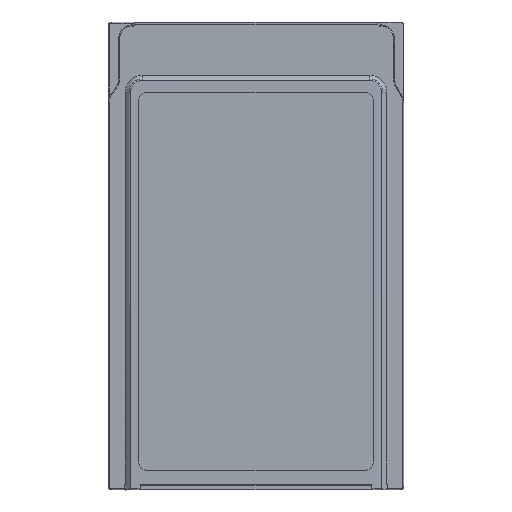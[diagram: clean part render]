
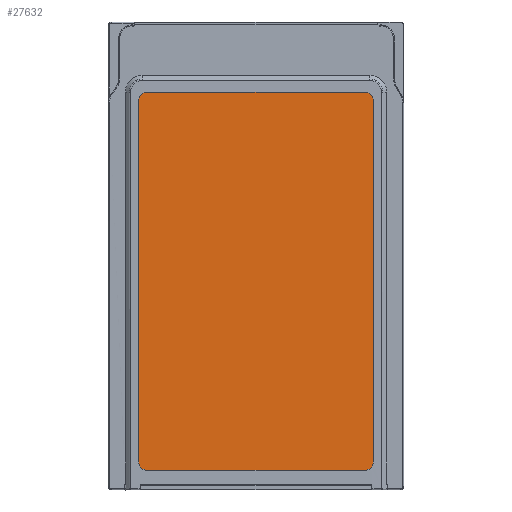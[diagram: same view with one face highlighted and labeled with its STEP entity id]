
A CAD part, front view. The second image highlights one B-rep face of the part: STEP entity #27632.
In plain terms, the highlighted planar face has unit normal (0, -1, 0).
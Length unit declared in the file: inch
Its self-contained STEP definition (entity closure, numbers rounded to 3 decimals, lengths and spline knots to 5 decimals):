
#4865=CARTESIAN_POINT('',(0.785,-0.07369,-1.54217));
#4866=DIRECTION('',(0.,-1.,0.));
#4867=DIRECTION('',(0.,0.,-1.));
#4868=AXIS2_PLACEMENT_3D('',#4865,#4866,#4867);
#4870=DIRECTION('',(1.,0.,0.));
#4871=VECTOR('',#4870,1.57);
#4872=CARTESIAN_POINT('',(-0.785,-0.07369,-1.60217));
#4873=LINE('',#4872,#4871);
#4874=CARTESIAN_POINT('',(-0.785,-0.07369,-1.54217));
#4875=DIRECTION('',(0.,-1.,0.));
#4876=DIRECTION('',(-1.,0.,0.));
#4877=AXIS2_PLACEMENT_3D('',#4874,#4875,#4876);
#4879=DIRECTION('',(0.,0.,-1.));
#4880=VECTOR('',#4879,2.6);
#4881=CARTESIAN_POINT('',(-0.845,-0.07369,1.05783));
#4882=LINE('',#4881,#4880);
#4883=CARTESIAN_POINT('',(-0.785,-0.07369,1.05783));
#4884=DIRECTION('',(0.,-1.,0.));
#4885=DIRECTION('',(0.,0.,1.));
#4886=AXIS2_PLACEMENT_3D('',#4883,#4884,#4885);
#4888=DIRECTION('',(-1.,0.,0.));
#4889=VECTOR('',#4888,1.57);
#4890=CARTESIAN_POINT('',(0.785,-0.07369,1.11783));
#4891=LINE('',#4890,#4889);
#4892=CARTESIAN_POINT('',(0.785,-0.07369,1.05783));
#4893=DIRECTION('',(0.,-1.,0.));
#4894=DIRECTION('',(1.,0.,0.));
#4895=AXIS2_PLACEMENT_3D('',#4892,#4893,#4894);
#4897=DIRECTION('',(0.,0.,1.));
#4898=VECTOR('',#4897,2.6);
#4899=CARTESIAN_POINT('',(0.845,-0.07369,-1.54217));
#4900=LINE('',#4899,#4898);
#21117=CARTESIAN_POINT('',(0.785,-0.07369,-1.60217));
#21118=CARTESIAN_POINT('',(0.845,-0.07369,-1.54217));
#21119=VERTEX_POINT('',#21117);
#21120=VERTEX_POINT('',#21118);
#21121=CARTESIAN_POINT('',(0.845,-0.07369,1.05783));
#21122=VERTEX_POINT('',#21121);
#21123=CARTESIAN_POINT('',(0.785,-0.07369,1.11783));
#21124=VERTEX_POINT('',#21123);
#21125=CARTESIAN_POINT('',(-0.785,-0.07369,1.11783));
#21126=VERTEX_POINT('',#21125);
#21127=CARTESIAN_POINT('',(-0.845,-0.07369,1.05783));
#21128=VERTEX_POINT('',#21127);
#21129=CARTESIAN_POINT('',(-0.845,-0.07369,-1.54217));
#21130=VERTEX_POINT('',#21129);
#21131=CARTESIAN_POINT('',(-0.785,-0.07369,-1.60217));
#21132=VERTEX_POINT('',#21131);
#27617=CARTESIAN_POINT('',(0.,-0.07369,-0.24217));
#27618=DIRECTION('',(0.,-1.,0.));
#27619=DIRECTION('',(-1.,0.,0.));
#27620=AXIS2_PLACEMENT_3D('',#27617,#27618,#27619);
#27621=PLANE('',#27620);
#27622=ORIENTED_EDGE('',*,*,#27513,.F.);
#27623=ORIENTED_EDGE('',*,*,#27528,.F.);
#27624=ORIENTED_EDGE('',*,*,#27542,.F.);
#27625=ORIENTED_EDGE('',*,*,#27556,.F.);
#27626=ORIENTED_EDGE('',*,*,#27570,.F.);
#27627=ORIENTED_EDGE('',*,*,#27584,.F.);
#27628=ORIENTED_EDGE('',*,*,#27598,.F.);
#27629=ORIENTED_EDGE('',*,*,#27611,.F.);
#27630=EDGE_LOOP('',(#27622,#27623,#27624,#27625,#27626,#27627,#27628,#27629));
#27631=FACE_OUTER_BOUND('',#27630,.F.);
#27632=ADVANCED_FACE('',(#27631),#27621,.T.);
#4869=CIRCLE('',#4868,0.06);
#4878=CIRCLE('',#4877,0.06);
#4887=CIRCLE('',#4886,0.06);
#4896=CIRCLE('',#4895,0.06);
#27513=EDGE_CURVE('',#21119,#21120,#4869,.T.);
#27528=EDGE_CURVE('',#21132,#21119,#4873,.T.);
#27542=EDGE_CURVE('',#21130,#21132,#4878,.T.);
#27556=EDGE_CURVE('',#21128,#21130,#4882,.T.);
#27570=EDGE_CURVE('',#21126,#21128,#4887,.T.);
#27584=EDGE_CURVE('',#21124,#21126,#4891,.T.);
#27598=EDGE_CURVE('',#21122,#21124,#4896,.T.);
#27611=EDGE_CURVE('',#21120,#21122,#4900,.T.);
